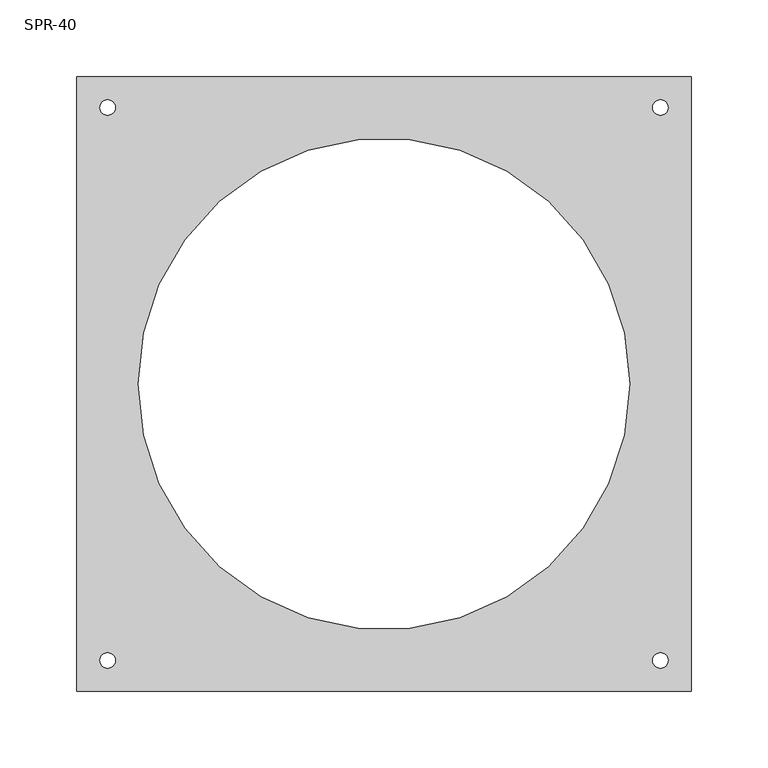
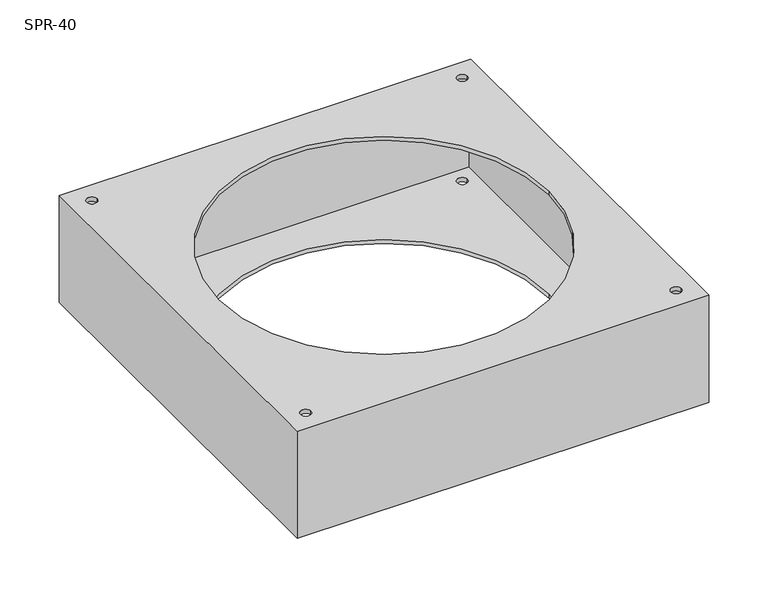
"""IFC4 building model written with IfcOpenShell, lengths in millimetres: damper geometry, СВ_КлапанИнерционный_КрышныйПрямоугольный_30-100_SPR : SPR-40."""

from ifc_helpers import new_model, si_unit, frame, origin, place, context, project, spatial, polyline, circle_curve, source, transform, mapped, element, save
from ifc_brep_helpers import plane_surface, revolved_surface, advanced_brep


def spr_40_4a25b722(model_context):
    return source(origin(), model_context, "Body", "AdvancedBrep", [
        advanced_brep(
        [(200.0, 200.0, 0.0), (-200.0, 200.0, 0.0), (-200.0, -200.0, 0.0), (200.0, -200.0, 0.0), (-160.0, 0.0, 0.0), (160.0, 0.0, 0.0), (-175.0, -180.0, 0.0), (-185.0, -180.0, 0.0), (185.0, -180.0, 0.0), (175.0, -180.0, 0.0), (185.0, 180.0, 0.0), (175.0, 180.0, 0.0), (-175.0, 180.0, 0.0), (-185.0, 180.0, 0.0), (200.0, 200.0, -110.0), (200.0, -200.0, -110.0), (-200.0, -200.0, -110.0), (-200.0, 200.0, -110.0), (-160.0, 0.0, -110.0), (160.0, 0.0, -110.0), (-185.0, -180.0, -110.0), (-175.0, -180.0, -110.0), (175.0, -180.0, -110.0), (185.0, -180.0, -110.0), (175.0, 180.0, -110.0), (185.0, 180.0, -110.0), (-185.0, 180.0, -110.0), (-175.0, 180.0, -110.0), (-160.0, 0.0, -4.0), (160.0, 0.0, -4.0), (160.0, 0.0, -106.0), (-160.0, 0.0, -106.0), (195.0, 195.0, -4.0), (195.0, -195.0, -4.0), (-195.0, -195.0, -4.0), (-195.0, 195.0, -4.0), (-185.0, -180.0, -4.0), (-175.0, -180.0, -4.0), (175.0, -180.0, -4.0), (185.0, -180.0, -4.0), (175.0, 180.0, -4.0), (185.0, 180.0, -4.0), (-185.0, 180.0, -4.0), (-175.0, 180.0, -4.0), (195.0, 195.0, -106.0), (-195.0, 195.0, -106.0), (-195.0, -195.0, -106.0), (195.0, -195.0, -106.0), (-175.0, -180.0, -106.0), (-185.0, -180.0, -106.0), (185.0, -180.0, -106.0), (175.0, -180.0, -106.0), (185.0, 180.0, -106.0), (175.0, 180.0, -106.0), (-175.0, 180.0, -106.0), (-185.0, 180.0, -106.0)],
        [
            (0, 1),
            (1, 2),
            (2, 3),
            (3, 0),
            (4, 5, circle_curve(frame((0.0, 0.0, 0.0), z_axis=(0.0, 0.0, -1.0), x_axis=(1.0, 0.0, 0.0)), 160.0)),
            (5, 4, circle_curve(frame((0.0, 0.0, 0.0), z_axis=(0.0, 0.0, -1.0), x_axis=(1.0, 0.0, 0.0)), 160.0)),
            (6, 7, circle_curve(frame((-180.0, -180.0, 0.0), z_axis=(0.0, 0.0, -1.0), x_axis=(1.0, 0.0, 0.0)), 5.0)),
            (7, 6, circle_curve(frame((-180.0, -180.0, 0.0), z_axis=(0.0, 0.0, -1.0), x_axis=(1.0, 0.0, 0.0)), 5.0)),
            (8, 9, circle_curve(frame((180.0, -180.0, 0.0), z_axis=(0.0, 0.0, -1.0), x_axis=(1.0, 0.0, 0.0)), 5.0)),
            (9, 8, circle_curve(frame((180.0, -180.0, 0.0), z_axis=(0.0, 0.0, -1.0), x_axis=(1.0, 0.0, 0.0)), 5.0)),
            (10, 11, circle_curve(frame((180.0, 180.0, 0.0), z_axis=(0.0, 0.0, -1.0), x_axis=(1.0, 0.0, 0.0)), 5.0)),
            (11, 10, circle_curve(frame((180.0, 180.0, 0.0), z_axis=(0.0, 0.0, -1.0), x_axis=(1.0, 0.0, 0.0)), 5.0)),
            (12, 13, circle_curve(frame((-180.0, 180.0, 0.0), z_axis=(0.0, 0.0, -1.0), x_axis=(1.0, 0.0, 0.0)), 5.0)),
            (13, 12, circle_curve(frame((-180.0, 180.0, 0.0), z_axis=(0.0, 0.0, -1.0), x_axis=(1.0, 0.0, 0.0)), 5.0)),
            (14, 15),
            (15, 16),
            (16, 17),
            (17, 14),
            (18, 19, circle_curve(frame((0.0, 0.0, -110.0), z_axis=(0.0, 0.0, 1.0), x_axis=(1.0, 0.0, 0.0)), 160.0)),
            (19, 18, circle_curve(frame((0.0, 0.0, -110.0), z_axis=(0.0, 0.0, 1.0), x_axis=(1.0, 0.0, 0.0)), 160.0)),
            (20, 21, circle_curve(frame((-180.0, -180.0, -110.0), z_axis=(0.0, 0.0, 1.0), x_axis=(1.0, 0.0, 0.0)), 5.0)),
            (21, 20, circle_curve(frame((-180.0, -180.0, -110.0), z_axis=(0.0, 0.0, 1.0), x_axis=(1.0, 0.0, 0.0)), 5.0)),
            (22, 23, circle_curve(frame((180.0, -180.0, -110.0), z_axis=(0.0, 0.0, 1.0), x_axis=(1.0, 0.0, 0.0)), 5.0)),
            (23, 22, circle_curve(frame((180.0, -180.0, -110.0), z_axis=(0.0, 0.0, 1.0), x_axis=(1.0, 0.0, 0.0)), 5.0)),
            (24, 25, circle_curve(frame((180.0, 180.0, -110.0), z_axis=(0.0, 0.0, 1.0), x_axis=(1.0, 0.0, 0.0)), 5.0)),
            (25, 24, circle_curve(frame((180.0, 180.0, -110.0), z_axis=(0.0, 0.0, 1.0), x_axis=(1.0, 0.0, 0.0)), 5.0)),
            (26, 27, circle_curve(frame((-180.0, 180.0, -110.0), z_axis=(0.0, 0.0, 1.0), x_axis=(1.0, 0.0, 0.0)), 5.0)),
            (27, 26, circle_curve(frame((-180.0, 180.0, -110.0), z_axis=(0.0, 0.0, 1.0), x_axis=(1.0, 0.0, 0.0)), 5.0)),
            (0, 14),
            (17, 1),
            (16, 2),
            (15, 3),
            (4, 28),
            (28, 29, circle_curve(frame((0.0, 0.0, -4.0), z_axis=(0.0, 0.0, -1.0), x_axis=(1.0, 0.0, 0.0)), 160.0)),
            (29, 5),
            (19, 30),
            (30, 31, circle_curve(frame((0.0, 0.0, -106.0), z_axis=(0.0, 0.0, 1.0), x_axis=(1.0, 0.0, 0.0)), 160.0)),
            (31, 18),
            (29, 28, circle_curve(frame((0.0, 0.0, -4.0), z_axis=(0.0, 0.0, -1.0), x_axis=(1.0, 0.0, 0.0)), 160.0)),
            (31, 30, circle_curve(frame((0.0, 0.0, -106.0), z_axis=(0.0, 0.0, 1.0), x_axis=(1.0, 0.0, 0.0)), 160.0)),
            (32, 33),
            (33, 34),
            (34, 35),
            (35, 32),
            (36, 37, circle_curve(frame((-180.0, -180.0, -4.0), z_axis=(0.0, 0.0, 1.0), x_axis=(1.0, 0.0, 0.0)), 5.0)),
            (37, 36, circle_curve(frame((-180.0, -180.0, -4.0), z_axis=(0.0, 0.0, 1.0), x_axis=(1.0, 0.0, 0.0)), 5.0)),
            (38, 39, circle_curve(frame((180.0, -180.0, -4.0), z_axis=(0.0, 0.0, 1.0), x_axis=(1.0, 0.0, 0.0)), 5.0)),
            (39, 38, circle_curve(frame((180.0, -180.0, -4.0), z_axis=(0.0, 0.0, 1.0), x_axis=(1.0, 0.0, 0.0)), 5.0)),
            (40, 41, circle_curve(frame((180.0, 180.0, -4.0), z_axis=(0.0, 0.0, 1.0), x_axis=(1.0, 0.0, 0.0)), 5.0)),
            (41, 40, circle_curve(frame((180.0, 180.0, -4.0), z_axis=(0.0, 0.0, 1.0), x_axis=(1.0, 0.0, 0.0)), 5.0)),
            (42, 43, circle_curve(frame((-180.0, 180.0, -4.0), z_axis=(0.0, 0.0, 1.0), x_axis=(1.0, 0.0, 0.0)), 5.0)),
            (43, 42, circle_curve(frame((-180.0, 180.0, -4.0), z_axis=(0.0, 0.0, 1.0), x_axis=(1.0, 0.0, 0.0)), 5.0)),
            (44, 45),
            (45, 46),
            (46, 47),
            (47, 44),
            (48, 49, circle_curve(frame((-180.0, -180.0, -106.0), z_axis=(0.0, 0.0, -1.0), x_axis=(1.0, 0.0, 0.0)), 5.0)),
            (49, 48, circle_curve(frame((-180.0, -180.0, -106.0), z_axis=(0.0, 0.0, -1.0), x_axis=(1.0, 0.0, 0.0)), 5.0)),
            (50, 51, circle_curve(frame((180.0, -180.0, -106.0), z_axis=(0.0, 0.0, -1.0), x_axis=(1.0, 0.0, 0.0)), 5.0)),
            (51, 50, circle_curve(frame((180.0, -180.0, -106.0), z_axis=(0.0, 0.0, -1.0), x_axis=(1.0, 0.0, 0.0)), 5.0)),
            (52, 53, circle_curve(frame((180.0, 180.0, -106.0), z_axis=(0.0, 0.0, -1.0), x_axis=(1.0, 0.0, 0.0)), 5.0)),
            (53, 52, circle_curve(frame((180.0, 180.0, -106.0), z_axis=(0.0, 0.0, -1.0), x_axis=(1.0, 0.0, 0.0)), 5.0)),
            (54, 55, circle_curve(frame((-180.0, 180.0, -106.0), z_axis=(0.0, 0.0, -1.0), x_axis=(1.0, 0.0, 0.0)), 5.0)),
            (55, 54, circle_curve(frame((-180.0, 180.0, -106.0), z_axis=(0.0, 0.0, -1.0), x_axis=(1.0, 0.0, 0.0)), 5.0)),
            (35, 45),
            (44, 32),
            (34, 46),
            (33, 47),
            (36, 7),
            (6, 37),
            (20, 49),
            (48, 21),
            (38, 9),
            (8, 39),
            (22, 51),
            (50, 23),
            (40, 11),
            (10, 41),
            (24, 53),
            (52, 25),
            (42, 13),
            (12, 43),
            (26, 55),
            (54, 27),
        ],
        [
            plane_surface(frame((-200.0, 200.0, 0.0), z_axis=(0.0, 0.0, 1.0), x_axis=(-1.0, 0.0, 0.0))),
            plane_surface(frame((-200.0, 200.0, -110.0), z_axis=(0.0, 0.0, -1.0), x_axis=(1.0, 0.0, 0.0))),
            plane_surface(frame((200.0, 200.0, 0.0), z_axis=(0.0, 1.0, 0.0), x_axis=(0.0, 0.0, -1.0))),
            plane_surface(frame((-200.0, 200.0, 0.0), z_axis=(-1.0, 0.0, 0.0), x_axis=(0.0, 0.0, -1.0))),
            plane_surface(frame((-200.0, -200.0, 0.0), z_axis=(0.0, -1.0, 0.0), x_axis=(0.0, 0.0, -1.0))),
            plane_surface(frame((200.0, -200.0, 0.0), z_axis=(1.0, 0.0, 0.0), x_axis=(0.0, 0.0, -1.0))),
            revolved_surface(polyline([(160.0, 0.0, -4.0), (160.0, 0.0, 0.0)]), (0.0, 0.0, 0.0), (0.0, 0.0, -1.0)),
            revolved_surface(polyline([(160.0, 0.0, -110.0), (160.0, 0.0, -106.0)]), (0.0, 0.0, 0.0), (0.0, 0.0, -1.0)),
            plane_surface(frame((-195.0, 195.0, -4.0), z_axis=(0.0, 0.0, -1.0), x_axis=(-1.0, 0.0, 0.0))),
            plane_surface(frame((-195.0, 195.0, -106.0), z_axis=(0.0, 0.0, 1.0), x_axis=(1.0, 0.0, 0.0))),
            plane_surface(frame((195.0, 195.0, -4.0), z_axis=(0.0, -1.0, 0.0), x_axis=(0.0, 0.0, -1.0))),
            plane_surface(frame((-195.0, 195.0, -4.0), z_axis=(1.0, 0.0, 0.0), x_axis=(0.0, 0.0, -1.0))),
            plane_surface(frame((-195.0, -195.0, -4.0), z_axis=(0.0, 1.0, 0.0), x_axis=(0.0, 0.0, -1.0))),
            plane_surface(frame((195.0, -195.0, -4.0), z_axis=(-1.0, 0.0, 0.0), x_axis=(0.0, 0.0, -1.0))),
            revolved_surface(polyline([(-175.0, -180.0, 0.0), (-175.0, -180.0, -4.0)]), (-180.0, -180.0, -110.0), (0.0, 0.0, 1.0)),
            revolved_surface(polyline([(-175.0, -180.0, -106.0), (-175.0, -180.0, -110.0)]), (-180.0, -180.0, -110.0), (0.0, 0.0, 1.0)),
            revolved_surface(polyline([(185.0, -180.0, 0.0), (185.0, -180.0, -4.0)]), (180.0, -180.0, 0.0), (0.0, 0.0, 1.0)),
            revolved_surface(polyline([(185.0, -180.0, -106.0), (185.0, -180.0, -110.0)]), (180.0, -180.0, 0.0), (0.0, 0.0, 1.0)),
            revolved_surface(polyline([(185.0, 180.0, 0.0), (185.0, 180.0, -4.0)]), (180.0, 180.0, 0.0), (0.0, 0.0, 1.0)),
            revolved_surface(polyline([(185.0, 180.0, -106.0), (185.0, 180.0, -110.0)]), (180.0, 180.0, 0.0), (0.0, 0.0, 1.0)),
            revolved_surface(polyline([(-175.0, 180.0, 0.0), (-175.0, 180.0, -4.0)]), (-180.0, 180.0, 0.0), (0.0, 0.0, 1.0)),
            revolved_surface(polyline([(-175.0, 180.0, -106.0), (-175.0, 180.0, -110.0)]), (-180.0, 180.0, 0.0), (0.0, 0.0, 1.0)),
        ],
        [
            (0, [[1, 2, 3, 4], [5, 6], [7, 8], [9, 10], [11, 12], [13, 14]]),
            (1, [[15, 16, 17, 18], [19, 20], [21, 22], [23, 24], [25, 26], [27, 28]]),
            (2, [[-1, 29, -18, 30]]),
            (3, [[-2, -30, -17, 31]]),
            (4, [[-3, -31, -16, 32]]),
            (5, [[-4, -32, -15, -29]]),
            (6, [[-5, 33, 34, 35]]),
            (7, [[-20, 36, 37, 38]]),
            (6, [[-6, -35, 39, -33]]),
            (7, [[-19, -38, 40, -36]]),
            (8, [[41, 42, 43, 44], [-34, -39], [45, 46], [47, 48], [49, 50], [51, 52]]),
            (9, [[53, 54, 55, 56], [-37, -40], [57, 58], [59, 60], [61, 62], [63, 64]]),
            (10, [[-44, 65, -53, 66]]),
            (11, [[-43, 67, -54, -65]]),
            (12, [[-42, 68, -55, -67]]),
            (13, [[-41, -66, -56, -68]]),
            (14, [[69, -7, 70, -45]]),
            (15, [[71, -57, 72, -21]]),
            (14, [[-69, -46, -70, -8]]),
            (15, [[-71, -22, -72, -58]]),
            (16, [[73, -9, 74, -47]]),
            (17, [[75, -59, 76, -23]]),
            (16, [[-73, -48, -74, -10]]),
            (17, [[-75, -24, -76, -60]]),
            (18, [[77, -11, 78, -49]]),
            (19, [[79, -61, 80, -25]]),
            (18, [[-77, -50, -78, -12]]),
            (19, [[-79, -26, -80, -62]]),
            (20, [[81, -13, 82, -51]]),
            (21, [[83, -63, 84, -27]]),
            (20, [[-81, -52, -82, -14]]),
            (21, [[-83, -28, -84, -64]]),
        ],
    ),
    ])


if __name__ == "__main__":
    model = new_model("IFC4")
    model_context = context("Model", 3, world=origin())
    ifc_project = project(units=[si_unit("LENGTHUNIT", "METRE", prefix="MILLI")], contexts=[model_context])
    site = spatial("IfcSite", under=ifc_project)
    building = spatial("IfcBuilding", under=site)
    placement = place(None, origin())
    spr_40_shape = spr_40_4a25b722(model_context)
    element("IfcDamper", 1, ObjectType="СВ_КлапанИнерционный_КрышныйПрямоугольный_30-100_SPR : SPR-40", at=placement, inside=building, context=model_context, shape_type="MappedRepresentation", body=[
        mapped(spr_40_shape, transform((0.0, 0.0, 0.0), x_axis=(1.0, 0.0, 0.0), y_axis=(0.0, 1.0, 0.0), z_axis=(0.0, 0.0, 1.0))),
    ])
    save(model, "model.ifc")
